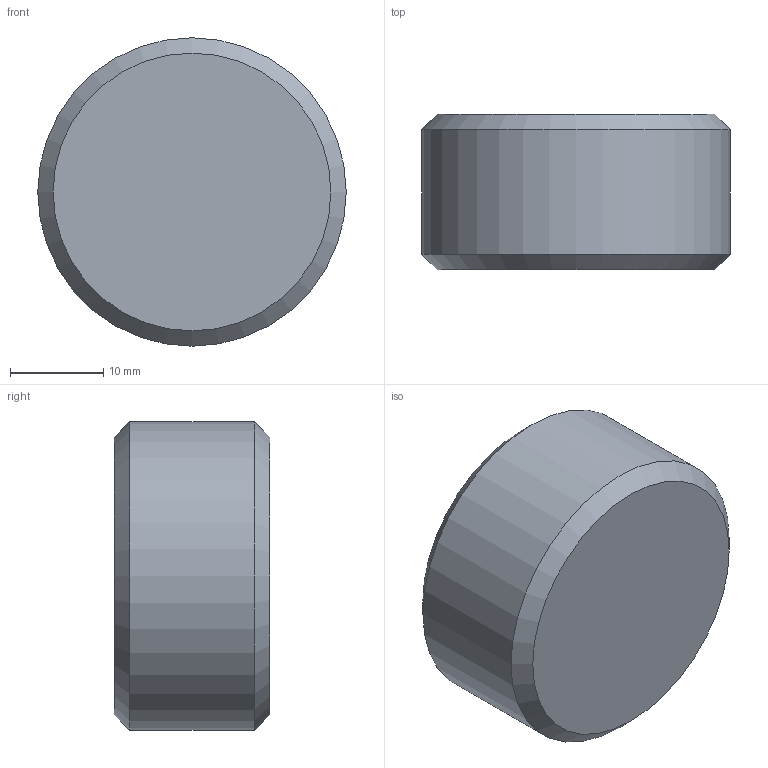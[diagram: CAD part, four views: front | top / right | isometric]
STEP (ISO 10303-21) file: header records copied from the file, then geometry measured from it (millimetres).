
FILE_DESCRIPTION(/* description */ (''),/* implementation_level */ '2;1');
FILE_NAME(/* name */ 'C:/Users/drich/Desktop/SF-1 v2.step',/* time_stamp */ '2020-01-08T20:58:33-06:00',/* author */ (''),/* organization */ (''),/* preprocessor_version */ 'ST-DEVELOPER v18',/* originating_system */ 'Autodesk Translation Framework v8.12.0.6',/* authorisation */ '');
FILE_SCHEMA (('AUTOMOTIVE_DESIGN { 1 0 10303 214 3 1 1 }'));
Length unit declared in the file: inch
Products named in the file (1): SF-1
Bounding box: 33.07 x 16.66 x 33.07 mm (x, y, z)
Volume: 11504.7 mm3; surface area: 3834.9 mm2
Topology: 1 solids, 1 shells, 13 faces, 35 edges, 25 vertices
Faces by surface type: plane 9, cone 3, cylinder 1
Full cylindrical faces by diameter (mm): 33.069 x1
Entity records: 439 total; most frequent: CARTESIAN_POINT 98, ORIENTED_EDGE 70, DIRECTION 58, EDGE_CURVE 35, VERTEX_POINT 25, AXIS2_PLACEMENT_3D 21, LINE 16, VECTOR 16
